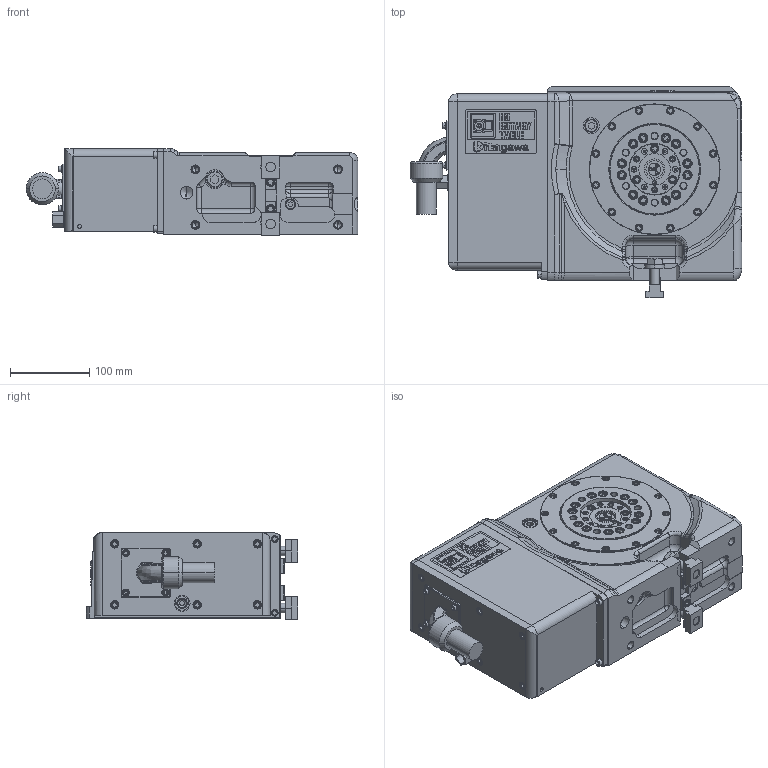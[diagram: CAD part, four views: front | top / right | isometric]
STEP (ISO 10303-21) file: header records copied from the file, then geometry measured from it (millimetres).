
FILE_DESCRIPTION (( 'STEP AP214' ), '1' );
FILE_NAME ('【掲載用】CKR160Quinte左勝手.STEP', '2019-10-11T01:48:26', ( '' ), ( '' ), 'SwSTEP 2.0', 'SolidWorks 2017', '' );
FILE_SCHEMA (( 'AUTOMOTIVE_DESIGN' ));
Length unit declared in the file: millimetre
Products named in the file (22): ベース(61E1136614)CKR160L00_ﾃﾞﾌｫﾙﾄ<ﾏｼﾝ加工>; ワッシャ １２(61M4266320)VQ100; CKR160LVホンタイ; 【掲載用】CKR160Quinte左勝手; 働乕僽儖N29ZSZ2562; キタガワシール; SMC KQ2E06-02; モータケースカバー(61E8232390)CKR160LV00_ﾃﾞﾌｫﾙﾄ<ﾏｼﾝ加工>; モータケース(61E2715130)CKR160LV00_ﾃﾞﾌｫﾙﾄ<ﾏｼﾝ加工>; ガイドブロック(61M4198752); CKR160L00僋儈僞僥(61E5013620); 僱乕儉僾儗乕僩丂MB160丂怴儘僑; CKR160　カバー; オイルゲージ 257; CKR160 チェックバルブ AKB01A-01S-×435; 僣僶僣僉僾儔僌GFO M20x1.5; 僔儕儞僟RJ(61E2666967)CKR160R00; クランプキミタテ(61E473251)CK160D1; テーブル(61E8145702)CKR160R00; Tスロットナット１４１２; ベアリングプッシュプレート(61E8145801)CKR160R00; B パーカ　M12×40
Assembly tree (23 placements, depth 4):
  【掲載用】CKR160Quinte左勝手
    CKR160LVホンタイ
      CKR160L00僋儈僞僥(61E5013620)
        ベース(61E1136614)CKR160L00_ﾃﾞﾌｫﾙﾄ<ﾏｼﾝ加工>
        ベアリングプッシュプレート(61E8145801)CKR160R00
        テーブル(61E8145702)CKR160R00
        僔儕儞僟RJ(61E2666967)CKR160R00
        僣僶僣僉僾儔僌GFO M20x1.5
        CKR160 チェックバルブ AKB01A-01S-×435
        オイルゲージ 257
        CKR160　カバー
        僱乕儉僾儗乕僩丂MB160丂怴儘僑
      ガイドブロック(61M4198752)  x2
      モータケース(61E2715130)CKR160LV00_ﾃﾞﾌｫﾙﾄ<ﾏｼﾝ加工>
      モータケースカバー(61E8232390)CKR160LV00_ﾃﾞﾌｫﾙﾄ<ﾏｼﾝ加工>
      SMC KQ2E06-02
      キタガワシール
      働乕僽儖N29ZSZ2562
    クランプキミタテ(61E473251)CK160D1  x2
      ワッシャ １２(61M4266320)VQ100
      B パーカ　M12×40
      Tスロットナット１４１２
Bounding box: 418.4 x 267 x 109.35 mm (x, y, z)
Volume: 8384300.6 mm3; surface area: 696444.1 mm2
Topology: 23 solids, 23 shells, 4325 faces, 11009 edges, 7139 vertices
Faces by surface type: plane 2963, cylinder 858, cone 371, bspline 88, torus 27, sphere 18
Entity records: 160460 total; most frequent: CARTESIAN_POINT 34319, ORIENTED_EDGE 21552, DIRECTION 20962, EDGE_CURVE 10776, VECTOR 8456, LINE 8456, VERTEX_POINT 7037, AXIS2_PLACEMENT_3D 6253
